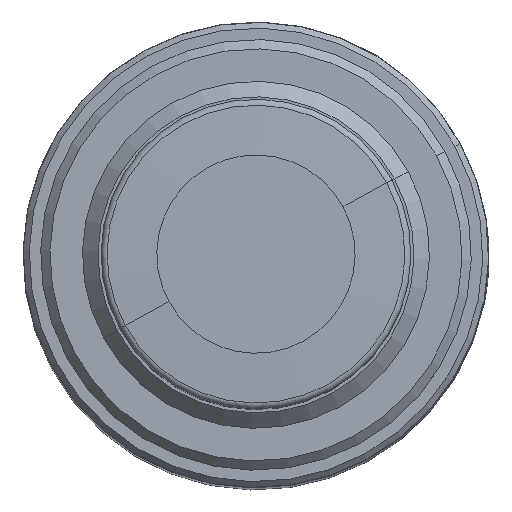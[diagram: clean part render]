
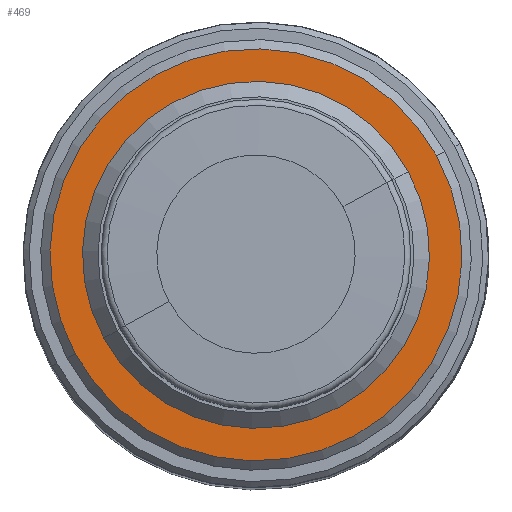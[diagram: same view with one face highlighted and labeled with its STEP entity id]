
A CAD part, top view. The second image highlights one B-rep face of the part: STEP entity #469.
In plain terms, the highlighted planar face has unit normal (0, 0, 1).
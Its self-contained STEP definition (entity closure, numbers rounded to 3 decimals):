
#303=CARTESIAN_POINT('Vertex',(24.572,13.424,136.9)) ;
#306=CARTESIAN_POINT('Axis2P3D Location',(0.,0.,136.9)) ;
#310=CARTESIAN_POINT('Vertex',(-24.572,-13.424,136.9)) ;
#330=CARTESIAN_POINT('Axis2P3D Location',(0.,0.,136.9)) ;
#347=CARTESIAN_POINT('Axis2P3D Location',(0.,0.,136.9)) ;
#351=CARTESIAN_POINT('Vertex',(29.18,15.941,136.9)) ;
#353=CARTESIAN_POINT('Vertex',(-29.18,-15.941,136.9)) ;
#382=CARTESIAN_POINT('Axis2P3D Location',(0.,0.,136.9)) ;
#456=CARTESIAN_POINT('Axis2P3D Location',(33.25,0.,136.9)) ;
#307=DIRECTION('Axis2P3D Direction',(0.,0.,-1.)) ;
#331=DIRECTION('Axis2P3D Direction',(0.,0.,-1.)) ;
#348=DIRECTION('Axis2P3D Direction',(0.,0.,-1.)) ;
#383=DIRECTION('Axis2P3D Direction',(0.,0.,-1.)) ;
#457=DIRECTION('Axis2P3D Direction',(0.,0.,1.)) ;
#458=DIRECTION('Axis2P3D XDirection',(1.,0.,0.)) ;
#308=AXIS2_PLACEMENT_3D('Circle Axis2P3D',#306,#307,$) ;
#332=AXIS2_PLACEMENT_3D('Circle Axis2P3D',#330,#331,$) ;
#349=AXIS2_PLACEMENT_3D('Circle Axis2P3D',#347,#348,$) ;
#384=AXIS2_PLACEMENT_3D('Circle Axis2P3D',#382,#383,$) ;
#459=AXIS2_PLACEMENT_3D('Plane Axis2P3D',#456,#457,#458) ;
#462=ORIENTED_EDGE('',*,*,#386,.T.) ;
#463=ORIENTED_EDGE('',*,*,#355,.T.) ;
#466=ORIENTED_EDGE('',*,*,#312,.F.) ;
#467=ORIENTED_EDGE('',*,*,#334,.F.) ;
#468=FACE_BOUND('',#465,.T.) ;
#469=ADVANCED_FACE('',(#464,#468),#460,.T.) ;
#309=CIRCLE('generated circle',#308,28.) ;
#333=CIRCLE('generated circle',#332,28.) ;
#350=CIRCLE('generated circle',#349,33.25) ;
#385=CIRCLE('generated circle',#384,33.25) ;
#312=EDGE_CURVE('',#304,#311,#309,.F.) ;
#334=EDGE_CURVE('',#311,#304,#333,.F.) ;
#355=EDGE_CURVE('',#352,#354,#350,.F.) ;
#386=EDGE_CURVE('',#354,#352,#385,.F.) ;
#461=EDGE_LOOP('',(#462,#463)) ;
#465=EDGE_LOOP('',(#466,#467)) ;
#464=FACE_OUTER_BOUND('',#461,.T.) ;
#460=PLANE('Plane',#459) ;
#304=VERTEX_POINT('',#303) ;
#311=VERTEX_POINT('',#310) ;
#352=VERTEX_POINT('',#351) ;
#354=VERTEX_POINT('',#353) ;
